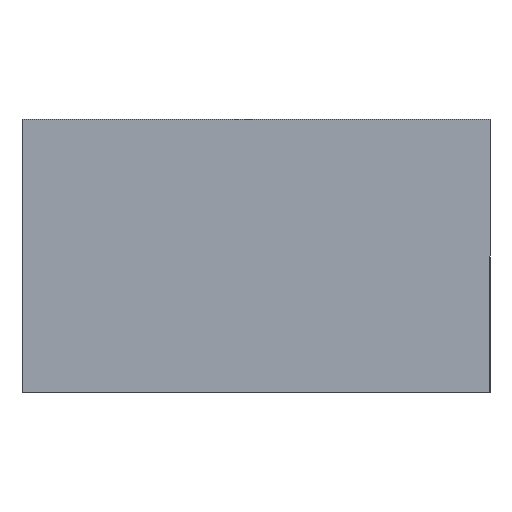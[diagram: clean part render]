
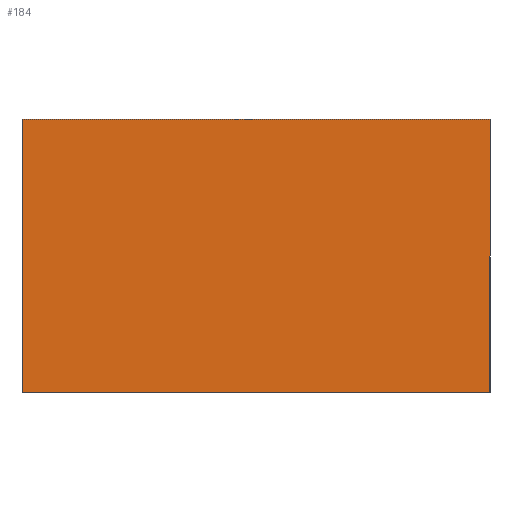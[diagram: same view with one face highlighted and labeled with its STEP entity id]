
A CAD part, front view. The second image highlights one B-rep face of the part: STEP entity #184.
In plain terms, the highlighted planar face has unit normal (0, -1, 0).
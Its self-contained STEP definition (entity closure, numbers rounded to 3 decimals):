
#59 = AXIS2_PLACEMENT_3D ( 'NONE', #1675, #2469, #1309 ) ;
#184 = ADVANCED_FACE ( 'NONE', ( #1526 ), #1885, .F. ) ;
#264 = DIRECTION ( 'NONE',  ( -1., 0., 0. ) ) ;
#439 = EDGE_CURVE ( 'NONE', #727, #2295, #1465, .T. ) ;
#463 = VECTOR ( 'NONE', #646, 1000. ) ;
#482 = CARTESIAN_POINT ( 'NONE',  ( -30., 0., 17.5 ) ) ;
#646 = DIRECTION ( 'NONE',  ( 0., 0., -1. ) ) ;
#655 = ORIENTED_EDGE ( 'NONE', *, *, #439, .F. ) ;
#687 = LINE ( 'NONE', #482, #1206 ) ;
#727 = VERTEX_POINT ( 'NONE', #1122 ) ;
#819 = EDGE_CURVE ( 'NONE', #1035, #1871, #1033, .T. ) ;
#865 = CARTESIAN_POINT ( 'NONE',  ( -30., 0., -17.5 ) ) ;
#879 = DIRECTION ( 'NONE',  ( 1., 0., 0. ) ) ;
#1033 = LINE ( 'NONE', #1147, #1994 ) ;
#1035 = VERTEX_POINT ( 'NONE', #2160 ) ;
#1122 = CARTESIAN_POINT ( 'NONE',  ( 30., 0., 17.5 ) ) ;
#1147 = CARTESIAN_POINT ( 'NONE',  ( -30., 0., -17.5 ) ) ;
#1191 = EDGE_CURVE ( 'NONE', #1871, #727, #687, .T. ) ;
#1206 = VECTOR ( 'NONE', #879, 1000. ) ;
#1241 = EDGE_LOOP ( 'NONE', ( #655, #1270, #2123, #2150 ) ) ;
#1270 = ORIENTED_EDGE ( 'NONE', *, *, #1191, .F. ) ;
#1309 = DIRECTION ( 'NONE',  ( 0., 0., 1. ) ) ;
#1380 = LINE ( 'NONE', #865, #2162 ) ;
#1465 = LINE ( 'NONE', #1797, #463 ) ;
#1526 = FACE_OUTER_BOUND ( 'NONE', #1241, .T. ) ;
#1675 = CARTESIAN_POINT ( 'NONE',  ( 0., 0., 0. ) ) ;
#1716 = DIRECTION ( 'NONE',  ( 0., 0., 1. ) ) ;
#1797 = CARTESIAN_POINT ( 'NONE',  ( 30., 0., -17.5 ) ) ;
#1808 = CARTESIAN_POINT ( 'NONE',  ( -30., 0., 17.5 ) ) ;
#1871 = VERTEX_POINT ( 'NONE', #1808 ) ;
#1885 = PLANE ( 'NONE',  #59 ) ;
#1899 = CARTESIAN_POINT ( 'NONE',  ( 30., 0., -17.5 ) ) ;
#1994 = VECTOR ( 'NONE', #1716, 1000. ) ;
#2123 = ORIENTED_EDGE ( 'NONE', *, *, #819, .F. ) ;
#2150 = ORIENTED_EDGE ( 'NONE', *, *, #2210, .F. ) ;
#2160 = CARTESIAN_POINT ( 'NONE',  ( -30., 0., -17.5 ) ) ;
#2162 = VECTOR ( 'NONE', #264, 1000. ) ;
#2210 = EDGE_CURVE ( 'NONE', #2295, #1035, #1380, .T. ) ;
#2295 = VERTEX_POINT ( 'NONE', #1899 ) ;
#2469 = DIRECTION ( 'NONE',  ( 0., 1., 0. ) ) ;
